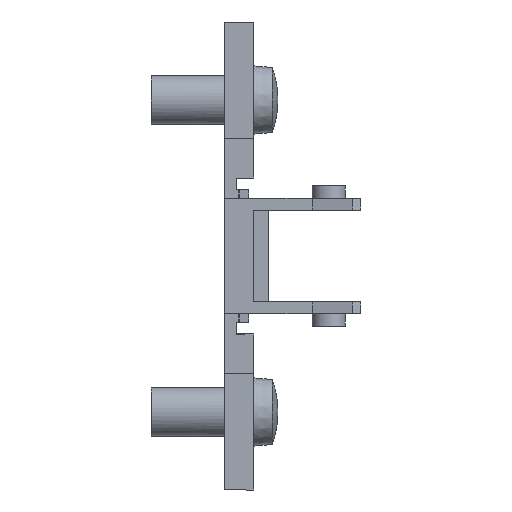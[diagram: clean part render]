
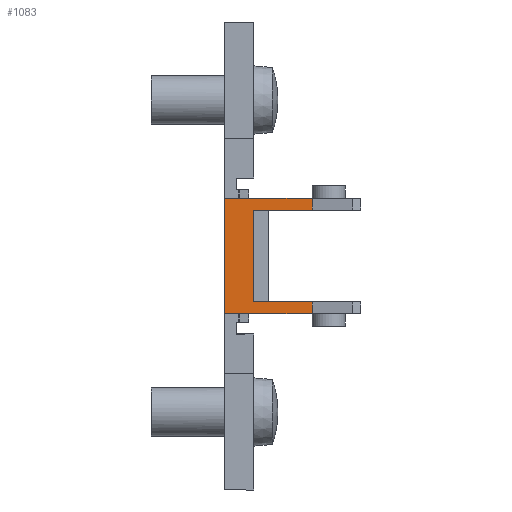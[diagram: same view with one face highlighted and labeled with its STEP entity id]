
A CAD part, front view. The second image highlights one B-rep face of the part: STEP entity #1083.
In plain terms, the highlighted planar face has unit normal (0, -1, 0).
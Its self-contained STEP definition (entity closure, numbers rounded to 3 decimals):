
#348 = EDGE_LOOP ( 'NONE', ( #966, #4147, #4149, #4148, #3944, #3949, #3950, #3951 ) ) ;
#436 = EDGE_CURVE ( 'NONE', #4225, #4227, #1803, .T. ) ;
#554 = EDGE_CURVE ( 'NONE', #4207, #4211, #1953, .T. ) ;
#591 = EDGE_CURVE ( 'NONE', #4212, #4229, #1998, .T. ) ;
#608 = EDGE_CURVE ( 'NONE', #4210, #4211, #2026, .T. ) ;
#664 = AXIS2_PLACEMENT_3D ( 'NONE', #3345, #3351, #3352 ) ;
#688 = EDGE_CURVE ( 'NONE', #4225, #4229, #2115, .T. ) ;
#763 = EDGE_CURVE ( 'NONE', #4258, #4207, #2200, .T. ) ;
#873 = EDGE_CURVE ( 'NONE', #4212, #4258, #2329, .T. ) ;
#955 = EDGE_CURVE ( 'NONE', #4227, #4210, #3705, .T. ) ;
#966 = ORIENTED_EDGE ( 'NONE', *, *, #873, .F. ) ;
#1083 = ADVANCED_FACE ( 'NONE', ( #3858 ), #3342, .T. ) ;
#1136 = DIRECTION ( 'NONE',  ( -1., 0., 0. ) ) ;
#1257 = DIRECTION ( 'NONE',  ( 0., 0., -1. ) ) ;
#1286 = CARTESIAN_POINT ( 'NONE',  ( 9.023, -16.55, 67.733 ) ) ;
#1337 = CARTESIAN_POINT ( 'NONE',  ( 14., -16.55, 5.9 ) ) ;
#1803 = LINE ( 'NONE', #1337, #1820 ) ;
#1820 = VECTOR ( 'NONE', #1136, 1000. ) ;
#1953 = LINE ( 'NONE', #1286, #1961 ) ;
#1961 = VECTOR ( 'NONE', #1257, 1000. ) ;
#1996 = VECTOR ( 'NONE', #2383, 1000. ) ;
#1998 = LINE ( 'NONE', #2382, #1996 ) ;
#2026 = LINE ( 'NONE', #2405, #2027 ) ;
#2027 = VECTOR ( 'NONE', #2406, 1000. ) ;
#2115 = LINE ( 'NONE', #2527, #2116 ) ;
#2116 = VECTOR ( 'NONE', #2528, 1000. ) ;
#2200 = LINE ( 'NONE', #2631, #2201 ) ;
#2201 = VECTOR ( 'NONE', #2632, 1000. ) ;
#2329 = LINE ( 'NONE', #2788, #2330 ) ;
#2330 = VECTOR ( 'NONE', #2789, 1000. ) ;
#2382 = CARTESIAN_POINT ( 'NONE',  ( 14., -16.55, 4.7 ) ) ;
#2383 = DIRECTION ( 'NONE',  ( 1., 0., 0. ) ) ;
#2405 = CARTESIAN_POINT ( 'NONE',  ( 1.5, -16.55, -5.9 ) ) ;
#2406 = DIRECTION ( 'NONE',  ( 1., 0., 0. ) ) ;
#2527 = CARTESIAN_POINT ( 'NONE',  ( 9.023, -16.55, 67.733 ) ) ;
#2528 = DIRECTION ( 'NONE',  ( 0., 0., -1. ) ) ;
#2631 = CARTESIAN_POINT ( 'NONE',  ( 14., -16.55, -4.7 ) ) ;
#2632 = DIRECTION ( 'NONE',  ( 1., 0., 0. ) ) ;
#2788 = CARTESIAN_POINT ( 'NONE',  ( 3., -16.55, -5.9 ) ) ;
#2789 = DIRECTION ( 'NONE',  ( 0., 0., -1. ) ) ;
#2905 = CARTESIAN_POINT ( 'NONE',  ( 0., -16.55, 15.37 ) ) ;
#2906 = DIRECTION ( 'NONE',  ( 0., 0., -1. ) ) ;
#3342 = PLANE ( 'NONE',  #664 ) ;
#3345 = CARTESIAN_POINT ( 'NONE',  ( 14., -16.55, -5.9 ) ) ;
#3351 = DIRECTION ( 'NONE',  ( 0., -1., 0. ) ) ;
#3352 = DIRECTION ( 'NONE',  ( -1., 0., 0. ) ) ;
#3469 = CARTESIAN_POINT ( 'NONE',  ( 9.023, -16.55, -4.7 ) ) ;
#3472 = CARTESIAN_POINT ( 'NONE',  ( 0., -16.55, -5.9 ) ) ;
#3473 = CARTESIAN_POINT ( 'NONE',  ( 9.023, -16.55, -5.9 ) ) ;
#3474 = CARTESIAN_POINT ( 'NONE',  ( 3., -16.55, 4.7 ) ) ;
#3487 = CARTESIAN_POINT ( 'NONE',  ( 9.023, -16.55, 5.9 ) ) ;
#3489 = CARTESIAN_POINT ( 'NONE',  ( 0., -16.55, 5.9 ) ) ;
#3491 = CARTESIAN_POINT ( 'NONE',  ( 9.023, -16.55, 4.7 ) ) ;
#3520 = CARTESIAN_POINT ( 'NONE',  ( 3., -16.55, -4.7 ) ) ;
#3705 = LINE ( 'NONE', #2905, #3706 ) ;
#3706 = VECTOR ( 'NONE', #2906, 1000. ) ;
#3858 = FACE_OUTER_BOUND ( 'NONE', #348, .T. ) ;
#3944 = ORIENTED_EDGE ( 'NONE', *, *, #955, .T. ) ;
#3949 = ORIENTED_EDGE ( 'NONE', *, *, #608, .T. ) ;
#3950 = ORIENTED_EDGE ( 'NONE', *, *, #554, .F. ) ;
#3951 = ORIENTED_EDGE ( 'NONE', *, *, #763, .F. ) ;
#4147 = ORIENTED_EDGE ( 'NONE', *, *, #591, .T. ) ;
#4148 = ORIENTED_EDGE ( 'NONE', *, *, #436, .T. ) ;
#4149 = ORIENTED_EDGE ( 'NONE', *, *, #688, .F. ) ;
#4207 = VERTEX_POINT ( 'NONE', #3469 ) ;
#4210 = VERTEX_POINT ( 'NONE', #3472 ) ;
#4211 = VERTEX_POINT ( 'NONE', #3473 ) ;
#4212 = VERTEX_POINT ( 'NONE', #3474 ) ;
#4225 = VERTEX_POINT ( 'NONE', #3487 ) ;
#4227 = VERTEX_POINT ( 'NONE', #3489 ) ;
#4229 = VERTEX_POINT ( 'NONE', #3491 ) ;
#4258 = VERTEX_POINT ( 'NONE', #3520 ) ;
